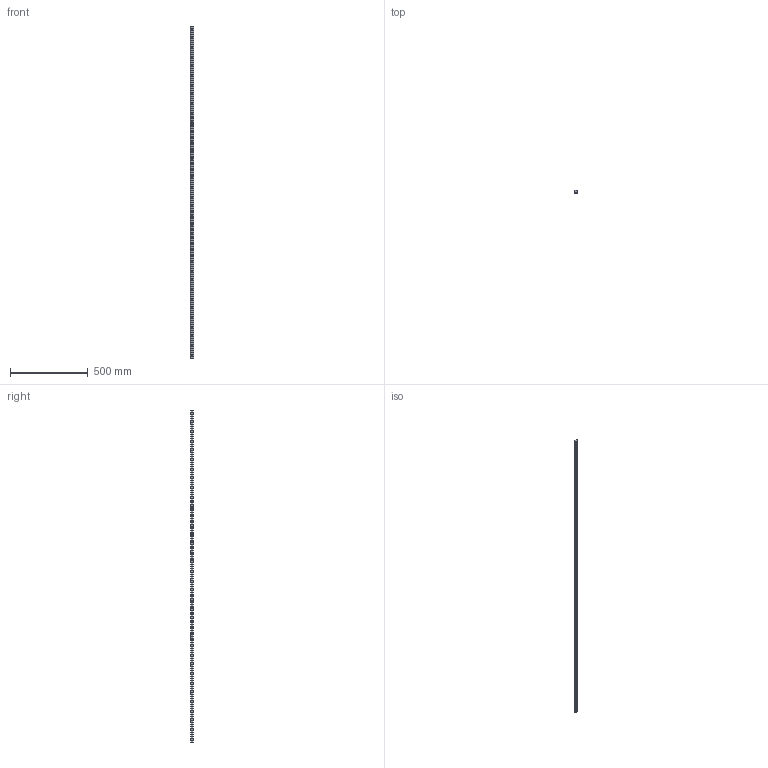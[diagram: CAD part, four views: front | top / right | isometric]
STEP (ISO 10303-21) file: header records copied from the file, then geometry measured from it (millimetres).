
FILE_DESCRIPTION (( 'STEP AP203' ), '1' );
FILE_NAME ('L1016.BL20-2140.step', '2019-06-12T11:51:53', ( '' ), ( '' ), 'SwSTEP 2.0', 'SolidWorks 2017', '' );
FILE_SCHEMA (( 'CONFIG_CONTROL_DESIGN' ));
Length unit declared in the file: millimetre
Products named in the file (1): L1016.BL20-2140
Bounding box: 20 x 16.3 x 2140 mm (x, y, z)
Volume: 594788.2 mm3; surface area: 172321.2 mm2
Topology: 1 solids, 1 shells, 206 faces, 504 edges, 336 vertices
Faces by surface type: cylinder 148, plane 58
Entity records: 6445 total; most frequent: DIRECTION 1214, CARTESIAN_POINT 1047, ORIENTED_EDGE 1008, EDGE_CURVE 504, AXIS2_PLACEMENT_3D 503, VERTEX_POINT 336, EDGE_LOOP 314, CIRCLE 296
